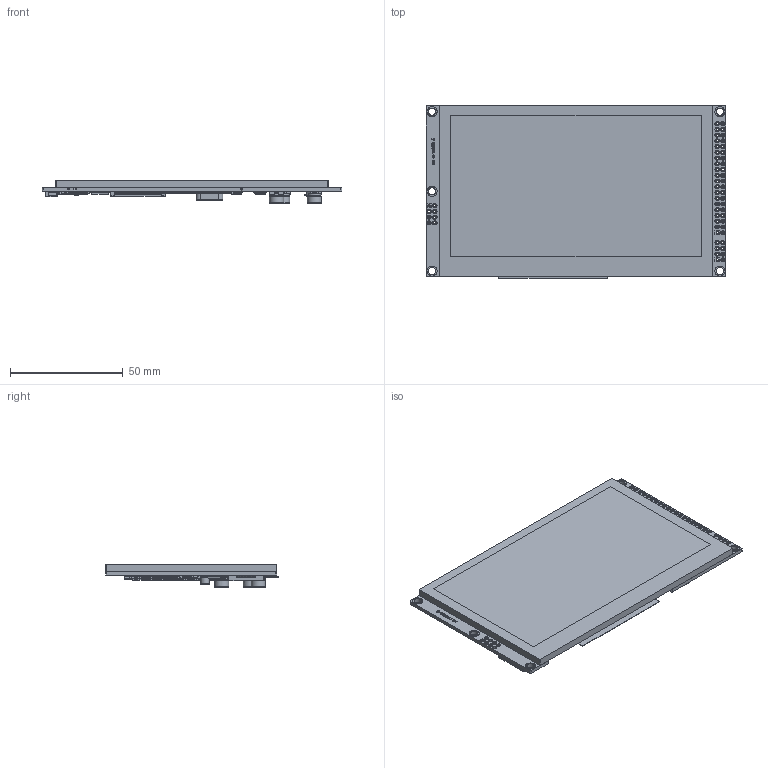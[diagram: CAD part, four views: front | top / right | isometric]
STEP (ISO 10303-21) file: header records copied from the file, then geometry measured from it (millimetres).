
FILE_DESCRIPTION(('HOOPS Exchange Step'),'2;1');
FILE_NAME('\\Server-1\e\公共文件夹\7.产品资料库\彩色-TFT\5寸\ER-TFTM050-4\3D\ER-TFTM050-4_3D.step','2021-01-28T10:10:33+08:00',('Administrator'),('Unknown organisation'),'HOOPS Exchange 2018.2','glovius.exe','Unknown authorisation');
FILE_SCHEMA( ('AUTOMOTIVE_DESIGN { 1 0 10303 214 1 1 1 1 }') );
Length unit declared in the file: millimetre
Products named in the file (13): 50-4 PCB-1; 固态电容-1; FLASH_IC-1; 连接器_50-Pin-1; 连接器_50-Pin - 副本-1; SD卡座-1; 连接器_6-Pin-1; 主控IC_new-1; XPT2046-1; SO-14 (PIC16F684)-1-1; 晶振-1; Default; ER-TFTM050-4
Assembly tree (15 placements, depth 3):
  ER-TFTM050-4
    Default
      50-4 PCB-1
      固态电容-1  x3
      FLASH_IC-1  x2
      连接器_50-Pin-1
      连接器_50-Pin - 副本-1
      SD卡座-1
      连接器_6-Pin-1
      主控IC_new-1
      XPT2046-1
      SO-14 (PIC16F684)-1-1
      晶振-1
Bounding box: 132.7 x 76.37 x 10.31 mm (x, y, z)
Volume: 46330.6 mm3; surface area: 36972.2 mm2
Topology: 244 solids, 247 shells, 9903 faces, 25473 edges, 16260 vertices
Faces by surface type: bspline 9903
Entity records: 931389 total; most frequent: CARTESIAN_POINT 611719, B_SPLINE_CURVE_WITH_KNOTS 66556, DEFINITIONAL_REPRESENTATION 49146, PCURVE 49146, ORIENTED_EDGE 49146, INTERSECTION_CURVE 24573, EDGE_CURVE 24573, VERTEX_POINT 15858
